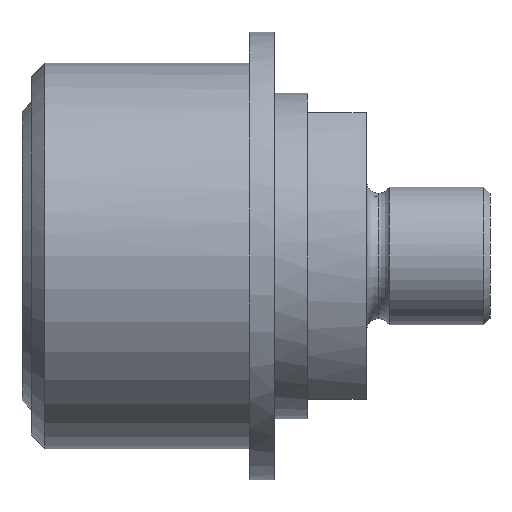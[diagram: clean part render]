
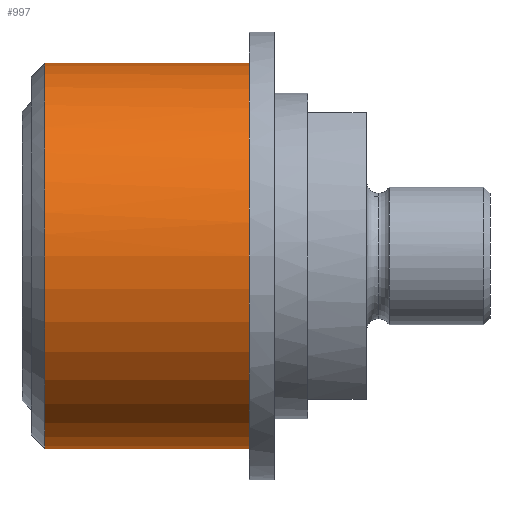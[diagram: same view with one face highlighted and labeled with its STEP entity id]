
A CAD part, front view. The second image highlights one B-rep face of the part: STEP entity #997.
In plain terms, the highlighted cylindrical face has radius 28 mm (diameter 56 mm), a partial arc.
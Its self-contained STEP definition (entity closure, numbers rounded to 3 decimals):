
#831=CARTESIAN_POINT('Vertex',(0.,0.,28.)) ;
#834=CARTESIAN_POINT('Axis2P3D Location',(0.,0.,0.)) ;
#838=CARTESIAN_POINT('Vertex',(0.,-28.,0.)) ;
#841=CARTESIAN_POINT('Axis2P3D Location',(0.,0.,0.)) ;
#845=CARTESIAN_POINT('Vertex',(0.,0.,-28.)) ;
#931=CARTESIAN_POINT('Line Origine',(35.,0.,-28.)) ;
#935=CARTESIAN_POINT('Vertex',(-29.697,0.,-28.)) ;
#952=CARTESIAN_POINT('Vertex',(-29.697,0.,28.)) ;
#955=CARTESIAN_POINT('Line Origine',(35.,0.,28.)) ;
#969=CARTESIAN_POINT('Axis2P3D Location',(35.,0.,0.)) ;
#975=CARTESIAN_POINT('Control Point',(-29.697,0.,28.)) ;
#976=CARTESIAN_POINT('Control Point',(-29.697,-8.796,28.)) ;
#977=CARTESIAN_POINT('Control Point',(-29.697,-17.601,24.556)) ;
#978=CARTESIAN_POINT('Control Point',(-29.697,-24.556,17.601)) ;
#979=CARTESIAN_POINT('Control Point',(-29.697,-28.,8.796)) ;
#980=CARTESIAN_POINT('Control Point',(-29.697,-28.,0.)) ;
#981=CARTESIAN_POINT('Vertex',(-29.697,-28.,0.)) ;
#984=CARTESIAN_POINT('Axis2P3D Location',(-29.697,0.,0.)) ;
#835=DIRECTION('Axis2P3D Direction',(1.,0.,-0.)) ;
#842=DIRECTION('Axis2P3D Direction',(1.,0.,-0.)) ;
#932=DIRECTION('Vector Direction',(-1.,0.,0.)) ;
#956=DIRECTION('Vector Direction',(-1.,0.,0.)) ;
#970=DIRECTION('Axis2P3D Direction',(-1.,-0.,-0.)) ;
#971=DIRECTION('Axis2P3D XDirection',(0.,0.,-1.)) ;
#985=DIRECTION('Axis2P3D Direction',(-1.,-0.,-0.)) ;
#836=AXIS2_PLACEMENT_3D('Circle Axis2P3D',#834,#835,$) ;
#843=AXIS2_PLACEMENT_3D('Circle Axis2P3D',#841,#842,$) ;
#972=AXIS2_PLACEMENT_3D('Cylinder Axis2P3D',#969,#970,#971) ;
#986=AXIS2_PLACEMENT_3D('Circle Axis2P3D',#984,#985,$) ;
#990=ORIENTED_EDGE('',*,*,#959,.T.) ;
#991=ORIENTED_EDGE('',*,*,#983,.T.) ;
#992=ORIENTED_EDGE('',*,*,#988,.T.) ;
#993=ORIENTED_EDGE('',*,*,#937,.T.) ;
#994=ORIENTED_EDGE('',*,*,#847,.F.) ;
#995=ORIENTED_EDGE('',*,*,#840,.F.) ;
#933=VECTOR('Line Direction',#932,1.) ;
#957=VECTOR('Line Direction',#956,1.) ;
#997=ADVANCED_FACE('AGS3412M20',(#996),#973,.T.) ;
#974=B_SPLINE_CURVE_WITH_KNOTS('',5,(#975,#976,#977,#978,#979,#980),.UNSPECIFIED.,.F.,.U.,(6,6),(-21.991,21.991),.UNSPECIFIED.) ;
#837=CIRCLE('generated circle',#836,28.) ;
#844=CIRCLE('generated circle',#843,28.) ;
#987=CIRCLE('generated circle',#986,28.) ;
#973=CYLINDRICAL_SURFACE('generated cylinder',#972,28.) ;
#840=EDGE_CURVE('',#832,#839,#837,.T.) ;
#847=EDGE_CURVE('',#839,#846,#844,.T.) ;
#937=EDGE_CURVE('',#936,#846,#934,.F.) ;
#959=EDGE_CURVE('',#832,#953,#958,.T.) ;
#983=EDGE_CURVE('',#953,#982,#974,.T.) ;
#988=EDGE_CURVE('',#982,#936,#987,.F.) ;
#989=EDGE_LOOP('',(#990,#991,#992,#993,#994,#995)) ;
#996=FACE_OUTER_BOUND('',#989,.T.) ;
#934=LINE('Line',#931,#933) ;
#958=LINE('Line',#955,#957) ;
#832=VERTEX_POINT('',#831) ;
#839=VERTEX_POINT('',#838) ;
#846=VERTEX_POINT('',#845) ;
#936=VERTEX_POINT('',#935) ;
#953=VERTEX_POINT('',#952) ;
#982=VERTEX_POINT('',#981) ;
